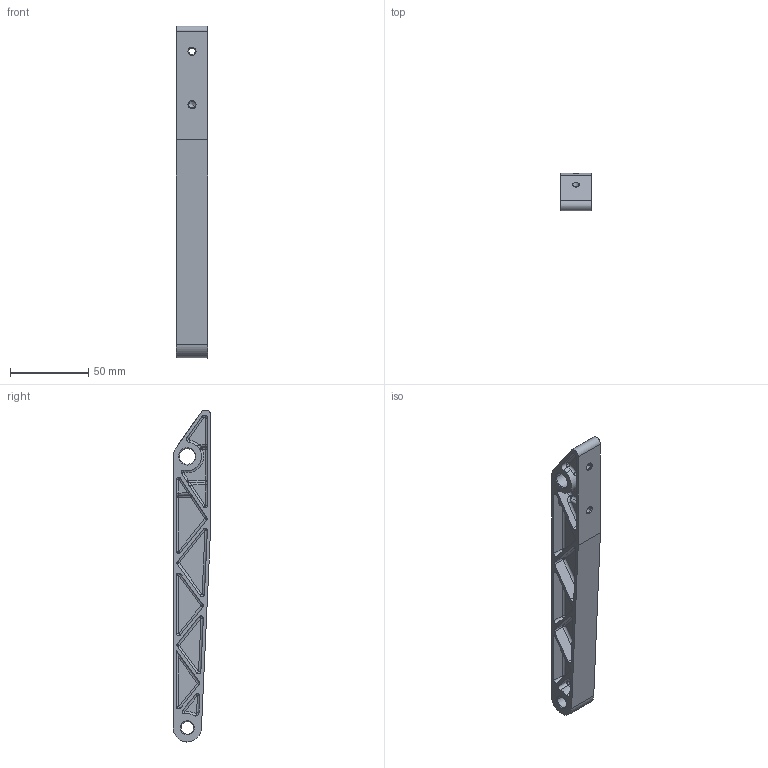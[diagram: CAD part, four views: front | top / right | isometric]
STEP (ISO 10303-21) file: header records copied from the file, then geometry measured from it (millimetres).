
FILE_DESCRIPTION(('3DEXPERIENCE STEP','CAx-IF Rec.Pracs.--- Model Styling and Organization---1.5--- 2016-08-15','CAx-IF Rec.Pracs.---Supplemental Geometry---1.0---2011-11-01','CAx-IF Rec.Pracs.--- Composite Materials ---3.4---2017-06-13','CAx-IF Rec.Pracs.---Tessellated 3D Geometry---1.0---2015-12-17'),'2;1');
FILE_NAME('\\?\D:\School\CarTech\CTU.25\Tutorials\Model\OEM\Pedal_Body.stp','2024-09-26T02:26:30+00:00',('none'),('none'),'3DEXPERIENCE Platform3DEXPERIENCE R2024x HotFix 4.24','3DEXPERIENCE Platform STEP AP242 v3','none');
FILE_SCHEMA(('AP242_MANAGED_MODEL_BASED_3D_ENGINEERING_MIM_LF {1 0 10303 442 1 1 4}'));
Length unit declared in the file: millimetre
Products named in the file (1): Brake_pedal
Bounding box: 20 x 24 x 211.57 mm (x, y, z)
Volume: 39312.4 mm3; surface area: 29177.1 mm2
Topology: 1 solids, 1 shells, 338 faces, 827 edges, 414 vertices
Faces by surface type: cylinder 124, sphere 93, plane 66, cone 22, bspline 12, revolution 12, torus 9
Entity records: 9455 total; most frequent: CARTESIAN_POINT 2971, ORIENTED_EDGE 1474, DIRECTION 1002, EDGE_CURVE 737, AXIS2_PLACEMENT_3D 515, VERTEX_POINT 414, EDGE_LOOP 359, ADVANCED_FACE 338
